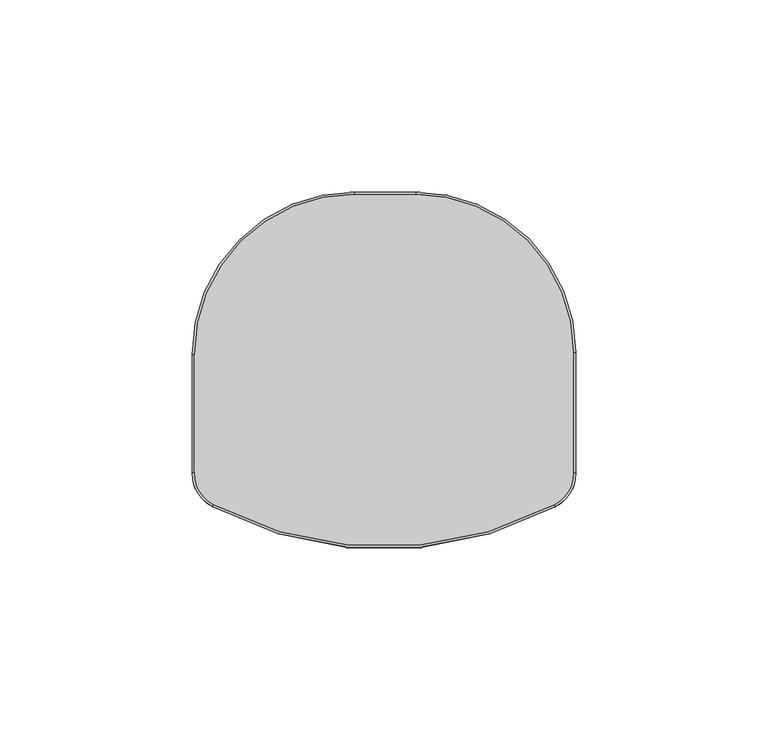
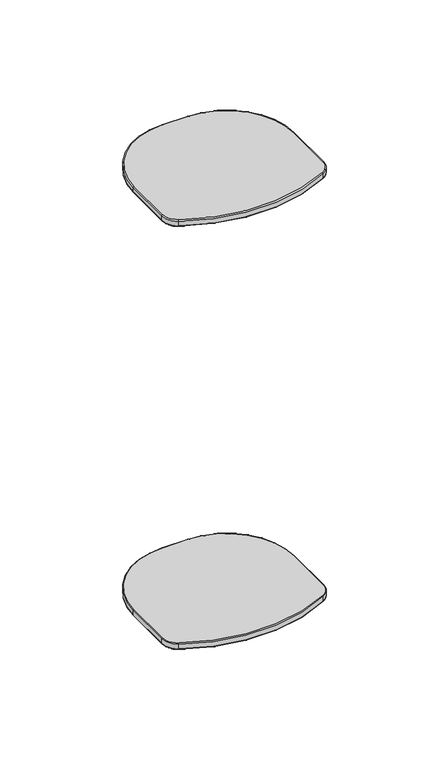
"""IFC4 building model written with IfcOpenShell, lengths in millimetres: proxy geometry, TS-C 10-300_T-EN54 : TS-C 10-300/T-EN54."""

from ifc_helpers import new_model, si_unit, point, frame, origin, place, context, project, spatial, polyline, circle_curve, ellipse_curve, trimmed, source, transform, mapped, element, save
from ifc_brep_helpers import plane_surface, cylinder_surface, revolved_surface, advanced_brep


def communication_devices_a26eadfc(model_context):
    return source(origin(), model_context, "Body", "AdvancedBrep", [
        advanced_brep(
        [(-7.7626041, 1.5, 8.4861854), (-49.99971, -40.7371059, 8.4861854), (-49.99971, -40.7371059, 11.4421964), (-7.7626041, 1.5, 11.4421964), (8.2345894, 1.5, 11.4421964), (8.2345894, 1.5, 8.4861854), (49.99971, -40.2651206, 11.4421964), (49.99971, -40.2651206, 8.4861854), (49.99971, -71.6195776, 11.4421964), (49.99971, -71.6195776, 8.4861854), (44.6610542, -80.4667167, 11.4421964), (44.6610542, -80.4667167, 8.4861854), (-44.6609866, -80.4670578, 11.4421964), (-44.6609866, -80.4670578, 8.4861854), (-49.99971, -71.6198831, 11.4421964), (-49.99971, -71.6198831, 8.4861854), (-49.4919104, -40.7371059, 11.949996), (-49.4919104, -71.6198831, 11.949996), (-44.4242872, -80.0177986, 11.949996), (44.4243513, -80.0174593, 11.949996), (49.4919104, -71.6195776, 11.949996), (49.4919104, -40.2651206, 11.949996), (8.2345894, 0.9922004, 11.949996), (-7.7626041, 0.9922004, 11.949996), (44.4111178, -79.9923424, 7.949996), (-44.4110539, -79.9926816, 7.949996), (-49.4635206, -71.6198831, 7.949996), (-49.4635206, -40.7371059, 7.949996), (-7.7626041, 0.9638106, 7.949996), (8.2345894, 0.9638106, 7.949996), (49.4635206, -40.2651206, 7.949996), (49.4635206, -71.6195776, 7.949996)],
        [
            (0, 1, circle_curve(frame((-7.7626041, -40.7371059, 8.4861854), z_axis=(0.0, 0.0, 1.0), x_axis=(-1.0, 0.0, 0.0)), 42.2371059)),
            (1, 2),
            (2, 3, circle_curve(frame((-7.7626041, -40.7371059, 11.4421964), z_axis=(0.0, 0.0, -1.0), x_axis=(-1.0, 0.0, 0.0)), 42.2371059)),
            (3, 0),
            (3, 4),
            (4, 5),
            (5, 0),
            (4, 6, circle_curve(frame((8.2345894, -40.2651206, 11.4421964), z_axis=(0.0, 0.0, -1.0), x_axis=(0.0, 1.0, 0.0)), 41.7651206)),
            (6, 7),
            (7, 5, circle_curve(frame((8.2345894, -40.2651206, 8.4861854), z_axis=(0.0, 0.0, 1.0), x_axis=(0.0, 1.0, 0.0)), 41.7651206)),
            (6, 8),
            (8, 9),
            (9, 7),
            (8, 10, circle_curve(frame((39.99971, -71.6195776, 11.4421964), z_axis=(0.0, 0.0, -1.0), x_axis=(1.0, 0.0, 0.0)), 10.0)),
            (10, 11),
            (11, 9, circle_curve(frame((39.99971, -71.6195776, 8.4861854), z_axis=(0.0, 0.0, 1.0), x_axis=(1.0, 0.0, 0.0)), 10.0)),
            (10, 12, circle_curve(frame((-0.0002899, 4.2996317, 11.4421964), z_axis=(0.0, 0.0, -1.0), x_axis=(0.46613441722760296, -0.8847139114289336, 0.0)), 95.8121573)),
            (12, 13),
            (13, 11, circle_curve(frame((-0.0002899, 4.2996317, 8.4861854), z_axis=(0.0, 0.0, 1.0), x_axis=(0.46613441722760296, -0.8847139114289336, 0.0)), 95.8121573)),
            (12, 14, circle_curve(frame((-39.99971, -71.6198831, 11.4421964), z_axis=(0.0, 0.0, -1.0), x_axis=(-0.4661276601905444, -0.8847174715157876, 0.0)), 10.0)),
            (14, 15),
            (15, 13, circle_curve(frame((-39.99971, -71.6198831, 8.4861854), z_axis=(0.0, 0.0, 1.0), x_axis=(-0.4661276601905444, -0.8847174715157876, 0.0)), 10.0)),
            (16, 17),
            (17, 18, circle_curve(frame((-39.99971, -71.6198831, 11.949996), z_axis=(0.0, 0.0, 1.0), x_axis=(-0.4661276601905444, -0.8847174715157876, 0.0)), 9.4922004)),
            (18, 19, circle_curve(frame((-0.0002899, 4.2996317, 11.949996), z_axis=(0.0, 0.0, 1.0), x_axis=(0.46613441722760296, -0.8847139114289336, 0.0)), 95.3043576)),
            (19, 20, circle_curve(frame((39.99971, -71.6195776, 11.949996), z_axis=(0.0, 0.0, 1.0), x_axis=(1.0, 0.0, 0.0)), 9.4922004)),
            (20, 21),
            (21, 22, circle_curve(frame((8.2345894, -40.2651206, 11.949996), z_axis=(0.0, 0.0, 1.0), x_axis=(0.0, 1.0, 0.0)), 41.257321)),
            (22, 23),
            (23, 16, circle_curve(frame((-7.7626041, -40.7371059, 11.949996), z_axis=(0.0, 0.0, 1.0), x_axis=(-1.0, 0.0, 0.0)), 41.7293063)),
            (1, 15),
            (14, 2),
            (24, 25, circle_curve(frame((-0.0002899, 4.2996317, 7.949996), z_axis=(0.0, 0.0, -1.0), x_axis=(0.46613441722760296, -0.8847139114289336, 0.0)), 95.2759678)),
            (25, 26, circle_curve(frame((-39.99971, -71.6198831, 7.949996), z_axis=(0.0, 0.0, -1.0), x_axis=(-0.4661276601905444, -0.8847174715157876, 0.0)), 9.4638106)),
            (26, 27),
            (27, 28, circle_curve(frame((-7.7626041, -40.7371059, 7.949996), z_axis=(0.0, 0.0, -1.0), x_axis=(-1.0, 0.0, 0.0)), 41.7009165)),
            (28, 29),
            (29, 30, circle_curve(frame((8.2345894, -40.2651206, 7.949996), z_axis=(0.0, 0.0, -1.0), x_axis=(0.0, 1.0, 0.0)), 41.2289312)),
            (30, 31),
            (31, 24, circle_curve(frame((39.99971, -71.6195776, 7.949996), z_axis=(0.0, 0.0, -1.0), x_axis=(1.0, 0.0, 0.0)), 9.4638106)),
            (2, 16, circle_curve(frame((-49.4919104, -40.7371059, 11.4421964), z_axis=(0.0, 1.0, 0.0), x_axis=(-1.0, 0.0, 0.0)), 0.5077996)),
            (23, 3, circle_curve(frame((-7.7626041, 0.9922004, 11.4421964), z_axis=(-1.0, 0.0, 0.0), x_axis=(0.0, 1.0, 0.0)), 0.5077996)),
            (0, 28, circle_curve(frame((-7.7626041, 0.9638106, 8.4861854), z_axis=(-1.0, 0.0, 0.0), x_axis=(0.0, 1.0, 0.0)), 0.5361894)),
            (27, 1, circle_curve(frame((-49.4635206, -40.7371059, 8.4861854), z_axis=(0.0, 1.0, 0.0), x_axis=(-1.0, 0.0, 0.0)), 0.5361894)),
            (22, 4, circle_curve(frame((8.2345894, 0.9922004, 11.4421964), z_axis=(-1.0, 0.0, 0.0), x_axis=(0.0, 1.0, 0.0)), 0.5077996)),
            (5, 29, circle_curve(frame((8.2345894, 0.9638106, 8.4861854), z_axis=(-1.0, 0.0, 0.0), x_axis=(0.0, 1.0, 0.0)), 0.5361894)),
            (21, 6, circle_curve(frame((49.4919104, -40.2651206, 11.4421964), z_axis=(0.0, 1.0, 0.0), x_axis=(1.0, 0.0, 0.0)), 0.5077996)),
            (7, 30, circle_curve(frame((49.4635206, -40.2651206, 8.4861854), z_axis=(0.0, 1.0, 0.0), x_axis=(1.0, 0.0, 0.0)), 0.5361894)),
            (20, 8, circle_curve(frame((49.4919104, -71.6195776, 11.4421964), z_axis=(0.0, 1.0, 0.0), x_axis=(1.0, 0.0, 0.0)), 0.5077996)),
            (9, 31, circle_curve(frame((49.4635206, -71.6195776, 8.4861854), z_axis=(0.0, 1.0, 0.0), x_axis=(1.0, 0.0, 0.0)), 0.5361894)),
            (19, 10, circle_curve(frame((44.4243513, -80.0174593, 11.4421964), z_axis=(0.884713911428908, 0.4661344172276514, 0.0), x_axis=(0.4661344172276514, -0.884713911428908, 0.0)), 0.5077996)),
            (11, 24, circle_curve(frame((44.4111178, -79.9923424, 8.4861854), z_axis=(0.8847139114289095, 0.4661344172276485, 0.0), x_axis=(0.4661344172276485, -0.8847139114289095, 0.0)), 0.5361894)),
            (18, 12, circle_curve(frame((-44.4242872, -80.0177986, 11.4421964), z_axis=(0.8847174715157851, -0.466127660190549, 0.0), x_axis=(-0.466127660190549, -0.8847174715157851, 0.0)), 0.5077996)),
            (13, 25, circle_curve(frame((-44.4110539, -79.9926816, 8.4861854), z_axis=(0.8847174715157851, -0.466127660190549, 0.0), x_axis=(-0.466127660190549, -0.8847174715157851, 0.0)), 0.5361894)),
            (17, 14, circle_curve(frame((-49.4919104, -71.6198831, 11.4421964), z_axis=(0.0, -1.0, 0.0), x_axis=(-1.0, 0.0, 0.0)), 0.5077996)),
            (15, 26, circle_curve(frame((-49.4635206, -71.6198831, 8.4861854), z_axis=(0.0, -1.0, 0.0), x_axis=(-1.0, 0.0, 0.0)), 0.5361894)),
        ],
        [
            cylinder_surface(frame((-7.7626041, -40.7371059, 0.0), z_axis=(0.0, 0.0, -1.0), x_axis=(-1.0, 0.0, 0.0)), 42.2371059),
            plane_surface(frame((-7.7626041, 1.5, 11.4421964), z_axis=(0.0, 1.0, 0.0), x_axis=(1.0, 0.0, 0.0))),
            cylinder_surface(frame((8.2345894, -40.2651206, 0.0), z_axis=(0.0, 0.0, -1.0), x_axis=(0.0, 1.0, 0.0)), 41.7651206),
            plane_surface(frame((49.99971, -40.2651206, 11.4421964), z_axis=(1.0, 0.0, 0.0), x_axis=(0.0, -1.0, 0.0))),
            cylinder_surface(frame((39.99971, -71.6195776, 0.0), z_axis=(0.0, 0.0, -1.0), x_axis=(1.0, 0.0, 0.0)), 10.0),
            cylinder_surface(frame((-0.0002899, 4.2996317, 0.0), z_axis=(0.0, 0.0, -1.0), x_axis=(0.46613441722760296, -0.8847139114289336, 0.0)), 95.8121573),
            cylinder_surface(frame((-39.99971, -71.6198831, 0.0), z_axis=(0.0, 0.0, -1.0), x_axis=(-0.4661276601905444, -0.8847174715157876, 0.0)), 10.0),
            plane_surface(frame((-48.0983774, -71.6198831, 11.949996), z_axis=(0.0, 0.0, 1.0), x_axis=(0.0, 1.0, 0.0))),
            plane_surface(frame((-49.99971, -71.6198831, 11.4421964), z_axis=(-1.0, 0.0, 0.0), x_axis=(0.0, 1.0, 0.0))),
            plane_surface(frame((-49.4635206, -71.6198831, 7.949996), z_axis=(0.0, 0.0, -1.0), x_axis=(0.0, 1.0, 0.0))),
            revolved_surface(trimmed(ellipse_curve(frame((-49.4919104, -40.7371059, 11.4421964), z_axis=(0.0, -1.0, 0.0), x_axis=(-1.0, 0.0, 0.0)), 0.5077996, 0.5077996), [point((-49.4919104, -40.7371059, 11.949996))], [point((-49.99971, -40.7371059, 11.4421964))], True, "CARTESIAN"), (-7.7626041, -40.7371059, 0.0), (0.0, 0.0, -1.0)),
            revolved_surface(trimmed(ellipse_curve(frame((-49.4635206, -40.7371059, 8.4861854), z_axis=(0.0, -1.0, 0.0), x_axis=(-1.0, 0.0, 0.0)), 0.5361894, 0.5361894), [point((-49.99971, -40.7371059, 8.4861854))], [point((-49.4635206, -40.7371059, 7.949996))], True, "CARTESIAN"), (-7.7626041, -40.7371059, 0.0), (0.0, 0.0, -1.0)),
            cylinder_surface(frame((-7.7626041, 0.9922004, 11.4421964), z_axis=(-1.0, 0.0, 0.0), x_axis=(0.0, 1.0, 0.0)), 0.5077996),
            cylinder_surface(frame((-7.7626041, 0.9638106, 8.4861854), z_axis=(-1.0, 0.0, 0.0), x_axis=(0.0, 1.0, 0.0)), 0.5361894),
            revolved_surface(trimmed(ellipse_curve(frame((8.2345894, 0.9922004, 11.4421964), z_axis=(-1.0, 0.0, 0.0), x_axis=(0.0, 1.0, 0.0)), 0.5077996, 0.5077996), [point((8.2345894, 0.9922004, 11.949996))], [point((8.2345894, 1.5, 11.4421964))], True, "CARTESIAN"), (8.2345894, -40.2651206, 0.0), (0.0, 0.0, -1.0)),
            revolved_surface(trimmed(ellipse_curve(frame((8.2345894, 0.9638106, 8.4861854), z_axis=(-1.0, 0.0, 0.0), x_axis=(0.0, 1.0, 0.0)), 0.5361894, 0.5361894), [point((8.2345894, 1.5, 8.4861854))], [point((8.2345894, 0.9638106, 7.949996))], True, "CARTESIAN"), (8.2345894, -40.2651206, 0.0), (0.0, 0.0, -1.0)),
            cylinder_surface(frame((49.4919104, -40.2651206, 11.4421964), z_axis=(0.0, 1.0, 0.0), x_axis=(1.0, 0.0, 0.0)), 0.5077996),
            cylinder_surface(frame((49.4635206, -40.2651206, 8.4861854), z_axis=(0.0, 1.0, 0.0), x_axis=(1.0, 0.0, 0.0)), 0.5361894),
            revolved_surface(trimmed(ellipse_curve(frame((49.4919104, -71.6195776, 11.4421964), z_axis=(0.0, 1.0, 0.0), x_axis=(1.0, 0.0, 0.0)), 0.5077996, 0.5077996), [point((49.4919104, -71.6195776, 11.949996))], [point((49.99971, -71.6195776, 11.4421964))], True, "CARTESIAN"), (39.99971, -71.6195776, 0.0), (0.0, 0.0, -1.0)),
            revolved_surface(trimmed(ellipse_curve(frame((49.4635206, -71.6195776, 8.4861854), z_axis=(0.0, 1.0, 0.0), x_axis=(1.0, 0.0, 0.0)), 0.5361894, 0.5361894), [point((49.99971, -71.6195776, 8.4861854))], [point((49.4635206, -71.6195776, 7.949996))], True, "CARTESIAN"), (39.99971, -71.6195776, 0.0), (0.0, 0.0, -1.0)),
            revolved_surface(trimmed(ellipse_curve(frame((44.4243513, -80.0174593, 11.4421964), z_axis=(0.8847139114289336, 0.46613441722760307, 0.0), x_axis=(0.46613441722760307, -0.8847139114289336, 0.0)), 0.5077996, 0.5077996), [point((44.4243513, -80.0174593, 11.949996))], [point((44.6610542, -80.4667167, 11.4421964))], True, "CARTESIAN"), (-0.0002899, 4.2996317, 0.0), (0.0, 0.0, -1.0)),
            revolved_surface(trimmed(ellipse_curve(frame((44.4111178, -79.9923424, 8.4861854), z_axis=(0.8847139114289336, 0.46613441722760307, 0.0), x_axis=(0.46613441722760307, -0.8847139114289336, 0.0)), 0.5361894, 0.5361894), [point((44.6610542, -80.4667167, 8.4861854))], [point((44.4111178, -79.9923424, 7.949996))], True, "CARTESIAN"), (-0.0002899, 4.2996317, 0.0), (0.0, 0.0, -1.0)),
            revolved_surface(trimmed(ellipse_curve(frame((-44.4242872, -80.0177986, 11.4421964), z_axis=(0.8847174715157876, -0.46612766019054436, 0.0), x_axis=(-0.46612766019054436, -0.8847174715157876, 0.0)), 0.5077996, 0.5077996), [point((-44.4242872, -80.0177986, 11.949996))], [point((-44.6609866, -80.4670578, 11.4421964))], True, "CARTESIAN"), (-39.99971, -71.6198831, 0.0), (0.0, 0.0, -1.0)),
            revolved_surface(trimmed(ellipse_curve(frame((-44.4110539, -79.9926816, 8.4861854), z_axis=(0.8847174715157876, -0.46612766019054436, 0.0), x_axis=(-0.46612766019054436, -0.8847174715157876, 0.0)), 0.5361894, 0.5361894), [point((-44.6609866, -80.4670578, 8.4861854))], [point((-44.4110539, -79.9926816, 7.949996))], True, "CARTESIAN"), (-39.99971, -71.6198831, 0.0), (0.0, 0.0, -1.0)),
            cylinder_surface(frame((-49.4919104, -71.6198831, 11.4421964), z_axis=(0.0, -1.0, 0.0), x_axis=(-1.0, 0.0, 0.0)), 0.5077996),
            cylinder_surface(frame((-49.4635206, -71.6198831, 8.4861854), z_axis=(0.0, -1.0, 0.0), x_axis=(-1.0, 0.0, 0.0)), 0.5361894),
        ],
        [
            (0, [[1, 2, 3, 4]]),
            (1, [[-4, 5, 6, 7]]),
            (2, [[-6, 8, 9, 10]]),
            (3, [[-9, 11, 12, 13]]),
            (4, [[-12, 14, 15, 16]]),
            (5, [[-15, 17, 18, 19]]),
            (6, [[-18, 20, 21, 22]]),
            (7, [[23, 24, 25, 26, 27, 28, 29, 30]]),
            (8, [[-2, 31, -21, 32]]),
            (9, [[33, 34, 35, 36, 37, 38, 39, 40]]),
            (10, [[-3, 41, -30, 42]]),
            (11, [[-1, 43, -36, 44]]),
            (12, [[-5, -42, -29, 45]]),
            (13, [[-7, 46, -37, -43]]),
            (14, [[-8, -45, -28, 47]]),
            (15, [[-10, 48, -38, -46]]),
            (16, [[-11, -47, -27, 49]]),
            (17, [[-13, 50, -39, -48]]),
            (18, [[-14, -49, -26, 51]]),
            (19, [[-16, 52, -40, -50]]),
            (20, [[-17, -51, -25, 53]]),
            (21, [[-19, 54, -33, -52]]),
            (22, [[-20, -53, -24, 55]]),
            (23, [[-22, 56, -34, -54]]),
            (24, [[-23, -41, -32, -55]]),
            (25, [[-31, -44, -35, -56]]),
        ],
    ),
        advanced_brep(
        [(-7.7626041, 1.5, 287.6021766), (-49.99971, -40.7371059, 287.6021766), (-49.4635206, -40.7371059, 288.138366), (-7.7626041, 0.9638106, 288.138366), (-7.7626041, 1.5, 284.6461656), (-49.99971, -40.7371059, 284.6461656), (-7.7626041, 0.9922004, 284.138366), (-49.4919104, -40.7371059, 284.138366), (8.2345894, 0.9638106, 288.138366), (8.2345894, 1.5, 287.6021766), (8.2345894, 1.5, 284.6461656), (8.2345894, 0.9922004, 284.138366), (49.4635206, -40.2651206, 288.138366), (49.99971, -40.2651206, 287.6021766), (49.99971, -40.2651206, 284.6461656), (49.4919104, -40.2651206, 284.138366), (49.4635206, -71.6195776, 288.138366), (49.99971, -71.6195776, 287.6021766), (49.99971, -71.6195776, 284.6461656), (49.4919104, -71.6195776, 284.138366), (44.4111178, -79.9923424, 288.138366), (44.6610542, -80.4667167, 287.6021766), (44.6610542, -80.4667167, 284.6461656), (44.4243513, -80.0174593, 284.138366), (-44.4110539, -79.9926816, 288.138366), (-44.6609866, -80.4670578, 287.6021766), (-44.6609866, -80.4670578, 284.6461656), (-44.4242872, -80.0177986, 284.138366), (-49.4635206, -71.6198831, 288.138366), (-49.99971, -71.6198831, 287.6021766), (-49.99971, -71.6198831, 284.6461656), (-49.4919104, -71.6198831, 284.138366)],
        [
            (0, 1, circle_curve(frame((-7.7626041, -40.7371059, 287.6021766), z_axis=(0.0, 0.0, 1.0), x_axis=(-1.0, 0.0, 0.0)), 42.2371059)),
            (1, 2, circle_curve(frame((-49.4635206, -40.7371059, 287.6021766), z_axis=(0.0, 1.0, 0.0), x_axis=(-1.0, 0.0, 0.0)), 0.5361894)),
            (2, 3, circle_curve(frame((-7.7626041, -40.7371059, 288.138366), z_axis=(0.0, 0.0, -1.0), x_axis=(-1.0, 0.0, 0.0)), 41.7009165)),
            (3, 0, circle_curve(frame((-7.7626041, 0.9638106, 287.6021766), z_axis=(-1.0, 0.0, 0.0), x_axis=(0.0, 1.0, 0.0)), 0.5361894)),
            (0, 4),
            (4, 5, circle_curve(frame((-7.7626041, -40.7371059, 284.6461656), z_axis=(0.0, 0.0, 1.0), x_axis=(-1.0, 0.0, 0.0)), 42.2371059)),
            (5, 1),
            (4, 6, circle_curve(frame((-7.7626041, 0.9922004, 284.6461656), z_axis=(-1.0, 0.0, 0.0), x_axis=(0.0, 1.0, 0.0)), 0.5077996)),
            (6, 7, circle_curve(frame((-7.7626041, -40.7371059, 284.138366), z_axis=(0.0, 0.0, 1.0), x_axis=(-1.0, 0.0, 0.0)), 41.7293063)),
            (7, 5, circle_curve(frame((-49.4919104, -40.7371059, 284.6461656), z_axis=(0.0, 1.0, 0.0), x_axis=(-1.0, 0.0, 0.0)), 0.5077996)),
            (3, 8),
            (8, 9, circle_curve(frame((8.2345894, 0.9638106, 287.6021766), z_axis=(-1.0, 0.0, 0.0), x_axis=(0.0, 1.0, 0.0)), 0.5361894)),
            (9, 0),
            (9, 10),
            (10, 4),
            (10, 11, circle_curve(frame((8.2345894, 0.9922004, 284.6461656), z_axis=(-1.0, 0.0, 0.0), x_axis=(0.0, 1.0, 0.0)), 0.5077996)),
            (11, 6),
            (8, 12, circle_curve(frame((8.2345894, -40.2651206, 288.138366), z_axis=(0.0, 0.0, -1.0), x_axis=(0.0, 1.0, 0.0)), 41.2289312)),
            (12, 13, circle_curve(frame((49.4635206, -40.2651206, 287.6021766), z_axis=(0.0, 1.0, 0.0), x_axis=(1.0, 0.0, 0.0)), 0.5361894)),
            (13, 9, circle_curve(frame((8.2345894, -40.2651206, 287.6021766), z_axis=(0.0, 0.0, 1.0), x_axis=(0.0, 1.0, 0.0)), 41.7651206)),
            (13, 14),
            (14, 10, circle_curve(frame((8.2345894, -40.2651206, 284.6461656), z_axis=(0.0, 0.0, 1.0), x_axis=(0.0, 1.0, 0.0)), 41.7651206)),
            (14, 15, circle_curve(frame((49.4919104, -40.2651206, 284.6461656), z_axis=(0.0, 1.0, 0.0), x_axis=(1.0, 0.0, 0.0)), 0.5077996)),
            (15, 11, circle_curve(frame((8.2345894, -40.2651206, 284.138366), z_axis=(0.0, 0.0, 1.0), x_axis=(0.0, 1.0, 0.0)), 41.257321)),
            (12, 16),
            (16, 17, circle_curve(frame((49.4635206, -71.6195776, 287.6021766), z_axis=(0.0, 1.0, 0.0), x_axis=(1.0, 0.0, 0.0)), 0.5361894)),
            (17, 13),
            (17, 18),
            (18, 14),
            (18, 19, circle_curve(frame((49.4919104, -71.6195776, 284.6461656), z_axis=(0.0, 1.0, 0.0), x_axis=(1.0, 0.0, 0.0)), 0.5077996)),
            (19, 15),
            (16, 20, circle_curve(frame((39.99971, -71.6195776, 288.138366), z_axis=(0.0, 0.0, -1.0), x_axis=(1.0, 0.0, 0.0)), 9.4638106)),
            (20, 21, circle_curve(frame((44.4111178, -79.9923424, 287.6021766), z_axis=(0.884713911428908, 0.4661344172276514, 0.0), x_axis=(0.4661344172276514, -0.884713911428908, 0.0)), 0.5361894)),
            (21, 17, circle_curve(frame((39.99971, -71.6195776, 287.6021766), z_axis=(0.0, 0.0, 1.0), x_axis=(1.0, 0.0, 0.0)), 10.0)),
            (21, 22),
            (22, 18, circle_curve(frame((39.99971, -71.6195776, 284.6461656), z_axis=(0.0, 0.0, 1.0), x_axis=(1.0, 0.0, 0.0)), 10.0)),
            (22, 23, circle_curve(frame((44.4243513, -80.0174593, 284.6461656), z_axis=(0.8847139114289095, 0.4661344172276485, 0.0), x_axis=(0.4661344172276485, -0.8847139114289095, 0.0)), 0.5077996)),
            (23, 19, circle_curve(frame((39.99971, -71.6195776, 284.138366), z_axis=(0.0, 0.0, 1.0), x_axis=(1.0, 0.0, 0.0)), 9.4922004)),
            (20, 24, circle_curve(frame((-0.0002899, 4.2996317, 288.138366), z_axis=(0.0, 0.0, -1.0), x_axis=(0.46613441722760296, -0.8847139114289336, 0.0)), 95.2759678)),
            (24, 25, circle_curve(frame((-44.4110539, -79.9926816, 287.6021766), z_axis=(0.8847174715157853, -0.46612766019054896, 0.0), x_axis=(-0.46612766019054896, -0.8847174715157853, 0.0)), 0.5361894)),
            (25, 21, circle_curve(frame((-0.0002899, 4.2996317, 287.6021766), z_axis=(0.0, 0.0, 1.0), x_axis=(0.46613441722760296, -0.8847139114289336, 0.0)), 95.8121573)),
            (25, 26),
            (26, 22, circle_curve(frame((-0.0002899, 4.2996317, 284.6461656), z_axis=(0.0, 0.0, 1.0), x_axis=(0.46613441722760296, -0.8847139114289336, 0.0)), 95.8121573)),
            (26, 27, circle_curve(frame((-44.4242872, -80.0177986, 284.6461656), z_axis=(0.8847174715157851, -0.466127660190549, 0.0), x_axis=(-0.466127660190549, -0.8847174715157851, 0.0)), 0.5077996)),
            (27, 23, circle_curve(frame((-0.0002899, 4.2996317, 284.138366), z_axis=(0.0, 0.0, 1.0), x_axis=(0.46613441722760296, -0.8847139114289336, 0.0)), 95.3043576)),
            (24, 28, circle_curve(frame((-39.99971, -71.6198831, 288.138366), z_axis=(0.0, 0.0, -1.0), x_axis=(-0.4661276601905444, -0.8847174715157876, 0.0)), 9.4638106)),
            (28, 29, circle_curve(frame((-49.4635206, -71.6198831, 287.6021766), z_axis=(0.0, -1.0, 0.0), x_axis=(-1.0, 0.0, 0.0)), 0.5361894)),
            (29, 25, circle_curve(frame((-39.99971, -71.6198831, 287.6021766), z_axis=(0.0, 0.0, 1.0), x_axis=(-0.4661276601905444, -0.8847174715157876, 0.0)), 10.0)),
            (29, 30),
            (30, 26, circle_curve(frame((-39.99971, -71.6198831, 284.6461656), z_axis=(0.0, 0.0, 1.0), x_axis=(-0.4661276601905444, -0.8847174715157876, 0.0)), 10.0)),
            (30, 31, circle_curve(frame((-49.4919104, -71.6198831, 284.6461656), z_axis=(0.0, -1.0, 0.0), x_axis=(-1.0, 0.0, 0.0)), 0.5077996)),
            (31, 27, circle_curve(frame((-39.99971, -71.6198831, 284.138366), z_axis=(0.0, 0.0, 1.0), x_axis=(-0.4661276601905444, -0.8847174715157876, 0.0)), 9.4922004)),
            (2, 28),
            (1, 29),
            (5, 30),
            (7, 31),
        ],
        [
            revolved_surface(trimmed(ellipse_curve(frame((-49.4635206, -40.7371059, 287.6021766), z_axis=(0.0, -1.0, 0.0), x_axis=(-1.0, 0.0, 0.0)), 0.5361894, 0.5361894), [point((-49.4635206, -40.7371059, 288.138366))], [point((-49.99971, -40.7371059, 287.6021766))], True, "CARTESIAN"), (-7.7626041, -40.7371059, 0.0), (0.0, 0.0, -1.0)),
            cylinder_surface(frame((-7.7626041, -40.7371059, 0.0), z_axis=(0.0, 0.0, -1.0), x_axis=(-1.0, 0.0, 0.0)), 42.2371059),
            revolved_surface(trimmed(ellipse_curve(frame((-49.4919104, -40.7371059, 284.6461656), z_axis=(0.0, -1.0, 0.0), x_axis=(-1.0, 0.0, 0.0)), 0.5077996, 0.5077996), [point((-49.99971, -40.7371059, 284.6461656))], [point((-49.4919104, -40.7371059, 284.138366))], True, "CARTESIAN"), (-7.7626041, -40.7371059, 0.0), (0.0, 0.0, -1.0)),
            cylinder_surface(frame((-7.7626041, 0.9638106, 287.6021766), z_axis=(-1.0, 0.0, 0.0), x_axis=(0.0, 1.0, 0.0)), 0.5361894),
            plane_surface(frame((-7.7626041, 1.5, 287.6021766), z_axis=(0.0, 1.0, 0.0), x_axis=(1.0, 0.0, 0.0))),
            cylinder_surface(frame((-7.7626041, 0.9922004, 284.6461656), z_axis=(-1.0, 0.0, 0.0), x_axis=(0.0, 1.0, 0.0)), 0.5077996),
            revolved_surface(trimmed(ellipse_curve(frame((8.2345894, 0.9638106, 287.6021766), z_axis=(-1.0, 0.0, 0.0), x_axis=(0.0, 1.0, 0.0)), 0.5361894, 0.5361894), [point((8.2345894, 0.9638106, 288.138366))], [point((8.2345894, 1.5, 287.6021766))], True, "CARTESIAN"), (8.2345894, -40.2651206, 0.0), (0.0, 0.0, -1.0)),
            cylinder_surface(frame((8.2345894, -40.2651206, 0.0), z_axis=(0.0, 0.0, -1.0), x_axis=(0.0, 1.0, 0.0)), 41.7651206),
            revolved_surface(trimmed(ellipse_curve(frame((8.2345894, 0.9922004, 284.6461656), z_axis=(-1.0, 0.0, 0.0), x_axis=(0.0, 1.0, 0.0)), 0.5077996, 0.5077996), [point((8.2345894, 1.5, 284.6461656))], [point((8.2345894, 0.9922004, 284.138366))], True, "CARTESIAN"), (8.2345894, -40.2651206, 0.0), (0.0, 0.0, -1.0)),
            cylinder_surface(frame((49.4635206, -40.2651206, 287.6021766), z_axis=(0.0, 1.0, 0.0), x_axis=(1.0, 0.0, 0.0)), 0.5361894),
            plane_surface(frame((49.99971, -40.2651206, 287.6021766), z_axis=(1.0, 0.0, 0.0), x_axis=(0.0, -1.0, 0.0))),
            cylinder_surface(frame((49.4919104, -40.2651206, 284.6461656), z_axis=(0.0, 1.0, 0.0), x_axis=(1.0, 0.0, 0.0)), 0.5077996),
            revolved_surface(trimmed(ellipse_curve(frame((49.4635206, -71.6195776, 287.6021766), z_axis=(0.0, 1.0, 0.0), x_axis=(1.0, 0.0, 0.0)), 0.5361894, 0.5361894), [point((49.4635206, -71.6195776, 288.138366))], [point((49.99971, -71.6195776, 287.6021766))], True, "CARTESIAN"), (39.99971, -71.6195776, 0.0), (0.0, 0.0, -1.0)),
            cylinder_surface(frame((39.99971, -71.6195776, 0.0), z_axis=(0.0, 0.0, -1.0), x_axis=(1.0, 0.0, 0.0)), 10.0),
            revolved_surface(trimmed(ellipse_curve(frame((49.4919104, -71.6195776, 284.6461656), z_axis=(0.0, 1.0, 0.0), x_axis=(1.0, 0.0, 0.0)), 0.5077996, 0.5077996), [point((49.99971, -71.6195776, 284.6461656))], [point((49.4919104, -71.6195776, 284.138366))], True, "CARTESIAN"), (39.99971, -71.6195776, 0.0), (0.0, 0.0, -1.0)),
            revolved_surface(trimmed(ellipse_curve(frame((44.4111178, -79.9923424, 287.6021766), z_axis=(0.8847139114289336, 0.46613441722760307, 0.0), x_axis=(0.46613441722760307, -0.8847139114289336, 0.0)), 0.5361894, 0.5361894), [point((44.4111178, -79.9923424, 288.138366))], [point((44.6610542, -80.4667167, 287.6021766))], True, "CARTESIAN"), (-0.0002899, 4.2996317, 0.0), (0.0, 0.0, -1.0)),
            cylinder_surface(frame((-0.0002899, 4.2996317, 0.0), z_axis=(0.0, 0.0, -1.0), x_axis=(0.46613441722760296, -0.8847139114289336, 0.0)), 95.8121573),
            revolved_surface(trimmed(ellipse_curve(frame((44.4243513, -80.0174593, 284.6461656), z_axis=(0.8847139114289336, 0.46613441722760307, 0.0), x_axis=(0.46613441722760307, -0.8847139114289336, 0.0)), 0.5077996, 0.5077996), [point((44.6610542, -80.4667167, 284.6461656))], [point((44.4243513, -80.0174593, 284.138366))], True, "CARTESIAN"), (-0.0002899, 4.2996317, 0.0), (0.0, 0.0, -1.0)),
            revolved_surface(trimmed(ellipse_curve(frame((-44.4110539, -79.9926816, 287.6021766), z_axis=(0.8847174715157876, -0.46612766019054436, 0.0), x_axis=(-0.46612766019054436, -0.8847174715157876, 0.0)), 0.5361894, 0.5361894), [point((-44.4110539, -79.9926816, 288.138366))], [point((-44.6609866, -80.4670578, 287.6021766))], True, "CARTESIAN"), (-39.99971, -71.6198831, 0.0), (0.0, 0.0, -1.0)),
            cylinder_surface(frame((-39.99971, -71.6198831, 0.0), z_axis=(0.0, 0.0, -1.0), x_axis=(-0.4661276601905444, -0.8847174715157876, 0.0)), 10.0),
            revolved_surface(trimmed(ellipse_curve(frame((-44.4242872, -80.0177986, 284.6461656), z_axis=(0.8847174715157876, -0.46612766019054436, 0.0), x_axis=(-0.46612766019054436, -0.8847174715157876, 0.0)), 0.5077996, 0.5077996), [point((-44.6609866, -80.4670578, 284.6461656))], [point((-44.4242872, -80.0177986, 284.138366))], True, "CARTESIAN"), (-39.99971, -71.6198831, 0.0), (0.0, 0.0, -1.0)),
            plane_surface(frame((-48.0983774, -71.6198831, 288.138366), z_axis=(0.0, 0.0, 1.0), x_axis=(0.0, 1.0, 0.0))),
            cylinder_surface(frame((-49.4635206, -71.6198831, 287.6021766), z_axis=(0.0, -1.0, 0.0), x_axis=(-1.0, 0.0, 0.0)), 0.5361894),
            plane_surface(frame((-49.99971, -71.6198831, 287.6021766), z_axis=(-1.0, 0.0, 0.0), x_axis=(0.0, 1.0, 0.0))),
            cylinder_surface(frame((-49.4919104, -71.6198831, 284.6461656), z_axis=(0.0, -1.0, 0.0), x_axis=(-1.0, 0.0, 0.0)), 0.5077996),
            plane_surface(frame((-49.4919104, -71.6198831, 284.138366), z_axis=(0.0, 0.0, -1.0), x_axis=(0.0, 1.0, 0.0))),
        ],
        [
            (0, [[1, 2, 3, 4]]),
            (1, [[-1, 5, 6, 7]]),
            (2, [[-6, 8, 9, 10]]),
            (3, [[-4, 11, 12, 13]]),
            (4, [[-5, -13, 14, 15]]),
            (5, [[-8, -15, 16, 17]]),
            (6, [[-12, 18, 19, 20]]),
            (7, [[-14, -20, 21, 22]]),
            (8, [[-16, -22, 23, 24]]),
            (9, [[-19, 25, 26, 27]]),
            (10, [[-21, -27, 28, 29]]),
            (11, [[-23, -29, 30, 31]]),
            (12, [[-26, 32, 33, 34]]),
            (13, [[-28, -34, 35, 36]]),
            (14, [[-30, -36, 37, 38]]),
            (15, [[-33, 39, 40, 41]]),
            (16, [[-35, -41, 42, 43]]),
            (17, [[-37, -43, 44, 45]]),
            (18, [[-40, 46, 47, 48]]),
            (19, [[-42, -48, 49, 50]]),
            (20, [[-44, -50, 51, 52]]),
            (21, [[-3, 53, -46, -39, -32, -25, -18, -11]]),
            (22, [[-2, 54, -47, -53]]),
            (23, [[-7, 55, -49, -54]]),
            (24, [[-10, 56, -51, -55]]),
            (25, [[-9, -17, -24, -31, -38, -45, -52, -56]]),
        ],
    ),
        advanced_brep(
        [(8.2401398, -42.96875, 7.949996), (-8.2401398, -42.96875, 7.949996), (0.0, -42.96875, 7.949996), (8.2401398, -42.96875, 6.851348), (-8.2401398, -42.96875, 6.851348), (8.0745091, -42.96875, 6.0844144), (-8.0745091, -42.96875, 6.0844144), (7.6798654, -42.96875, 5.2133531), (-7.6798654, -42.96875, 5.2133531), (7.4956938, -42.96875, 4.3605677), (-7.4956938, -42.96875, 4.3605677), (7.4956938, -42.96875, 1.1570894), (-7.4956938, -42.96875, 1.1570894), (6.3386044, -42.96875, 0.0), (-6.3386044, -42.96875, 0.0), (0.0, -42.96875, 0.0)],
        [
            (0, 1, circle_curve(frame((0.0, -42.96875, 7.949996), z_axis=(0.0, 0.0, 1.0), x_axis=(-1.0, 0.0, 0.0)), 8.2401398)),
            (1, 2),
            (2, 0),
            (1, 0, circle_curve(frame((0.0, -42.96875, 7.949996), z_axis=(0.0, 0.0, 1.0), x_axis=(-1.0, 0.0, 0.0)), 8.2401398)),
            (3, 4, circle_curve(frame((0.0, -42.96875, 6.851348), z_axis=(0.0, 0.0, 1.0), x_axis=(-1.0, 0.0, 0.0)), 8.2401398)),
            (4, 1),
            (0, 3),
            (4, 3, circle_curve(frame((0.0, -42.96875, 6.851348), z_axis=(0.0, 0.0, 1.0), x_axis=(-1.0, 0.0, 0.0)), 8.2401398)),
            (5, 6, circle_curve(frame((0.0, -42.96875, 6.0844144), z_axis=(0.0, 0.0, 1.0), x_axis=(-1.0, 0.0, 0.0)), 8.0745091)),
            (6, 4, circle_curve(frame((-6.3817258, -42.96875, 6.851348), z_axis=(0.0, 1.0, 0.0), x_axis=(1.0, 0.0, 0.0)), 1.858414)),
            (3, 5, circle_curve(frame((6.3817258, -42.96875, 6.851348), z_axis=(0.0, 1.0, 0.0), x_axis=(-1.0, 0.0, 0.0)), 1.858414)),
            (6, 5, circle_curve(frame((0.0, -42.96875, 6.0844144), z_axis=(0.0, 0.0, 1.0), x_axis=(-1.0, 0.0, 0.0)), 8.0745091)),
            (7, 8, circle_curve(frame((0.0, -42.96875, 5.2133531), z_axis=(0.0, 0.0, 1.0), x_axis=(-1.0, 0.0, 0.0)), 7.6798654)),
            (8, 6),
            (5, 7),
            (8, 7, circle_curve(frame((0.0, -42.96875, 5.2133531), z_axis=(0.0, 0.0, 1.0), x_axis=(-1.0, 0.0, 0.0)), 7.6798654)),
            (9, 10, circle_curve(frame((0.0, -42.96875, 4.3605677), z_axis=(0.0, 0.0, 1.0), x_axis=(-1.0, 0.0, 0.0)), 7.4956938)),
            (10, 8, circle_curve(frame((-9.5621413, -42.96875, 4.3605677), z_axis=(0.0, -1.0, 0.0), x_axis=(1.0, 0.0, 0.0)), 2.0664475)),
            (7, 9, circle_curve(frame((9.5621413, -42.96875, 4.3605677), z_axis=(0.0, -1.0, 0.0), x_axis=(-1.0, 0.0, 0.0)), 2.0664475)),
            (10, 9, circle_curve(frame((0.0, -42.96875, 4.3605677), z_axis=(0.0, 0.0, 1.0), x_axis=(-1.0, 0.0, 0.0)), 7.4956938)),
            (11, 12, circle_curve(frame((0.0, -42.96875, 1.1570894), z_axis=(0.0, 0.0, 1.0), x_axis=(-1.0, 0.0, 0.0)), 7.4956938)),
            (12, 10),
            (9, 11),
            (12, 11, circle_curve(frame((0.0, -42.96875, 1.1570894), z_axis=(0.0, 0.0, 1.0), x_axis=(-1.0, 0.0, 0.0)), 7.4956938)),
            (13, 14, circle_curve(frame((0.0, -42.96875, 0.0), z_axis=(0.0, 0.0, 1.0), x_axis=(-1.0, 0.0, 0.0)), 6.3386044)),
            (14, 12, circle_curve(frame((-6.3386044, -42.96875, 1.1570894), z_axis=(0.0, 1.0, 0.0), x_axis=(1.0, 0.0, 0.0)), 1.1570894)),
            (11, 13, circle_curve(frame((6.3386044, -42.96875, 1.1570894), z_axis=(0.0, 1.0, 0.0), x_axis=(-1.0, 0.0, 0.0)), 1.1570894)),
            (14, 13, circle_curve(frame((0.0, -42.96875, 0.0), z_axis=(0.0, 0.0, 1.0), x_axis=(-1.0, 0.0, 0.0)), 6.3386044)),
            (15, 14),
            (13, 15),
        ],
        [
            plane_surface(frame((0.0, -42.96875, 7.949996), z_axis=(0.0, 0.0, 1.0), x_axis=(-1.0, 0.0, 0.0))),
            cylinder_surface(frame((0.0, -42.96875, 6.8507462), z_axis=(0.0, 0.0, -1.0), x_axis=(-1.0, 0.0, 0.0)), 8.2401398),
            revolved_surface(trimmed(ellipse_curve(frame((-6.3817258, -42.96875, 6.851348), z_axis=(0.0, -1.0, 0.0), x_axis=(1.0, 0.0, 0.0)), 1.858414, 1.858414), [point((-8.2401398, -42.96875, 6.851348))], [point((-8.0745091, -42.96875, 6.0844144))], True, "CARTESIAN"), (0.0, -42.96875, 6.8507462), (0.0, 0.0, -1.0)),
            revolved_surface(polyline([(-8.0745091, -42.96875, 6.0844144), (-7.6798654, -42.96875, 5.2133531)]), (0.0, -42.96875, 6.8507462), (0.0, 0.0, -1.0)),
            revolved_surface(trimmed(ellipse_curve(frame((-9.5621413, -42.96875, 4.3605677), z_axis=(0.0, 1.0, 0.0), x_axis=(1.0, 0.0, 0.0)), 2.0664475, 2.0664475), [point((-7.6798654, -42.96875, 5.2133531))], [point((-7.4956938, -42.96875, 4.3605677))], True, "CARTESIAN"), (0.0, -42.96875, 6.8507462), (0.0, 0.0, -1.0)),
            cylinder_surface(frame((0.0, -42.96875, 6.8507462), z_axis=(0.0, 0.0, -1.0), x_axis=(-1.0, 0.0, 0.0)), 7.4956938),
            revolved_surface(trimmed(ellipse_curve(frame((-6.3386044, -42.96875, 1.1570894), z_axis=(0.0, -1.0, 0.0), x_axis=(1.0, 0.0, 0.0)), 1.1570894, 1.1570894), [point((-7.4956938, -42.96875, 1.1570894))], [point((-6.3386044, -42.96875, 0.0))], True, "CARTESIAN"), (0.0, -42.96875, 6.8507462), (0.0, 0.0, -1.0)),
            plane_surface(frame((0.0, -42.96875, 0.0), z_axis=(0.0, 0.0, -1.0), x_axis=(-1.0, 0.0, 0.0))),
        ],
        [
            (0, [[1, 2, 3]]),
            (0, [[4, -3, -2]]),
            (1, [[5, 6, -1, 7]]),
            (1, [[8, -7, -4, -6]]),
            (2, [[9, 10, -5, 11]]),
            (2, [[12, -11, -8, -10]]),
            (3, [[13, 14, -9, 15]]),
            (3, [[16, -15, -12, -14]]),
            (4, [[17, 18, -13, 19]]),
            (4, [[20, -19, -16, -18]]),
            (5, [[21, 22, -17, 23]]),
            (5, [[24, -23, -20, -22]]),
            (6, [[25, 26, -21, 27]]),
            (6, [[28, -27, -24, -26]]),
            (7, [[29, -25, 30]]),
            (7, [[-30, -28, -29]]),
        ],
    ),
    ])


if __name__ == "__main__":
    model = new_model("IFC4")
    model_context = context("Model", 3, world=origin())
    ifc_project = project(units=[si_unit("LENGTHUNIT", "METRE", prefix="MILLI")], contexts=[model_context])
    site = spatial("IfcSite", under=ifc_project)
    building = spatial("IfcBuilding", under=site)
    placement = place(None, origin())
    communication_devices_shape = communication_devices_a26eadfc(model_context)
    element("IfcBuildingElementProxy", 1, Name="TS-C 10-300_T-EN54 : TS-C 10-300/T-EN54", ObjectType="TS-C 10-300_T-EN54 : TS-C 10-300/T-EN54", at=placement, inside=building, context=model_context, shape_type="MappedRepresentation", body=[
        mapped(communication_devices_shape, transform((0.0, 0.0, 0.0), x_axis=(1.0, 0.0, 0.0), y_axis=(0.0, 1.0, 0.0), z_axis=(0.0, 0.0, 1.0))),
    ])
    save(model, "model.ifc")
